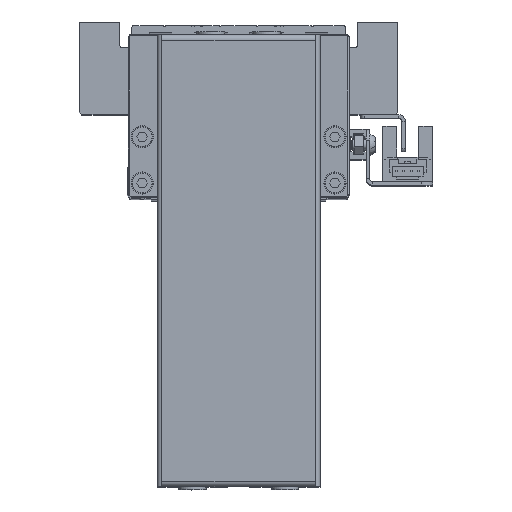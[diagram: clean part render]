
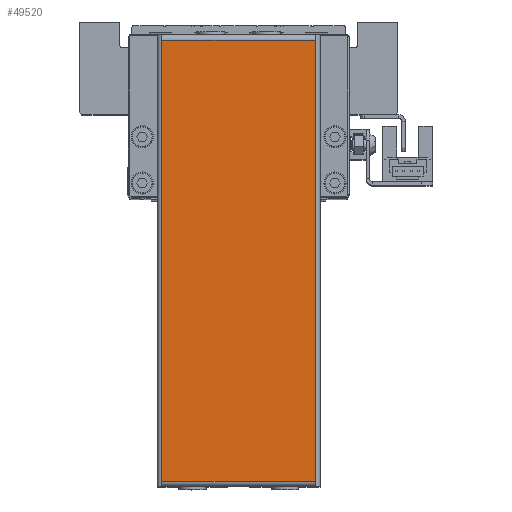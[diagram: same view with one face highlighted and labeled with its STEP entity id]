
A CAD part, top view. The second image highlights one B-rep face of the part: STEP entity #49520.
In plain terms, the highlighted planar face has unit normal (0, 0, 1) as drawn and (0, 0, -1) by its records, which use the part's own axes.
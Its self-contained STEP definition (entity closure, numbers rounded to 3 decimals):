
#2829 = VECTOR ( 'NONE', #45895, 1000. ) ;
#4902 = PLANE ( 'NONE',  #28336 ) ;
#5073 = VERTEX_POINT ( 'NONE', #51379 ) ;
#5130 = EDGE_LOOP ( 'NONE', ( #52395, #28427, #57356, #58677 ) ) ;
#5774 = CARTESIAN_POINT ( 'NONE',  ( 120.5, 1.3, -1. ) ) ;
#7089 = VERTEX_POINT ( 'NONE', #5774 ) ;
#7107 = CARTESIAN_POINT ( 'NONE',  ( 122., 1.3, -1. ) ) ;
#7411 = EDGE_CURVE ( 'NONE', #7089, #56299, #62931, .T. ) ;
#7472 = CARTESIAN_POINT ( 'NONE',  ( 1.5, 1.3, -1. ) ) ;
#11306 = LINE ( 'NONE', #17906, #13813 ) ;
#13813 = VECTOR ( 'NONE', #55270, 1000. ) ;
#15582 = CARTESIAN_POINT ( 'NONE',  ( 0., 0., -1. ) ) ;
#15625 = DIRECTION ( 'NONE',  ( 1., 0., 0. ) ) ;
#17906 = CARTESIAN_POINT ( 'NONE',  ( 120.5, 42.7, -1. ) ) ;
#18999 = FACE_OUTER_BOUND ( 'NONE', #5130, .T. ) ;
#19965 = VECTOR ( 'NONE', #15625, 1000. ) ;
#23220 = LINE ( 'NONE', #39644, #24902 ) ;
#24262 = DIRECTION ( 'NONE',  ( 0., 1., 0. ) ) ;
#24902 = VECTOR ( 'NONE', #24262, 1000. ) ;
#28336 = AXIS2_PLACEMENT_3D ( 'NONE', #15582, #59542, #32110 ) ;
#28427 = ORIENTED_EDGE ( 'NONE', *, *, #64775, .T. ) ;
#29787 = VERTEX_POINT ( 'NONE', #57491 ) ;
#32110 = DIRECTION ( 'NONE',  ( -1., 0., 0. ) ) ;
#34163 = EDGE_CURVE ( 'NONE', #56299, #5073, #23220, .T. ) ;
#39644 = CARTESIAN_POINT ( 'NONE',  ( 1.5, 1.3, -1. ) ) ;
#45895 = DIRECTION ( 'NONE',  ( -1., 0., 0. ) ) ;
#49520 = ADVANCED_FACE ( 'NONE', ( #18999 ), #4902, .T. ) ;
#51379 = CARTESIAN_POINT ( 'NONE',  ( 1.5, 42.7, -1. ) ) ;
#52395 = ORIENTED_EDGE ( 'NONE', *, *, #58340, .T. ) ;
#53479 = CARTESIAN_POINT ( 'NONE',  ( 0., 42.7, -1. ) ) ;
#55270 = DIRECTION ( 'NONE',  ( 0., -1., 0. ) ) ;
#56299 = VERTEX_POINT ( 'NONE', #7472 ) ;
#57356 = ORIENTED_EDGE ( 'NONE', *, *, #7411, .T. ) ;
#57491 = CARTESIAN_POINT ( 'NONE',  ( 120.5, 42.7, -1. ) ) ;
#58340 = EDGE_CURVE ( 'NONE', #5073, #29787, #65617, .T. ) ;
#58677 = ORIENTED_EDGE ( 'NONE', *, *, #34163, .T. ) ;
#59542 = DIRECTION ( 'NONE',  ( 0., 0., -1. ) ) ;
#62931 = LINE ( 'NONE', #7107, #2829 ) ;
#64775 = EDGE_CURVE ( 'NONE', #29787, #7089, #11306, .T. ) ;
#65617 = LINE ( 'NONE', #53479, #19965 ) ;
